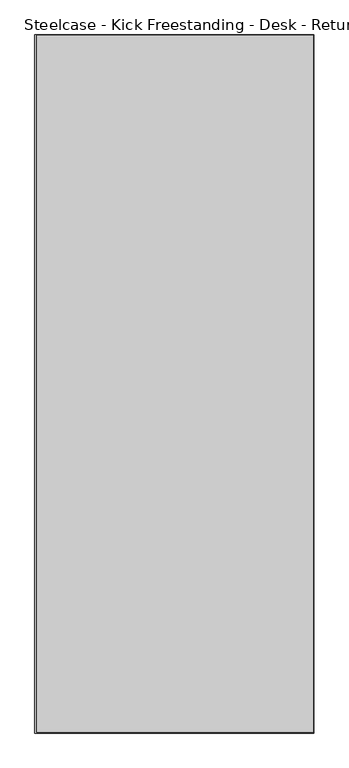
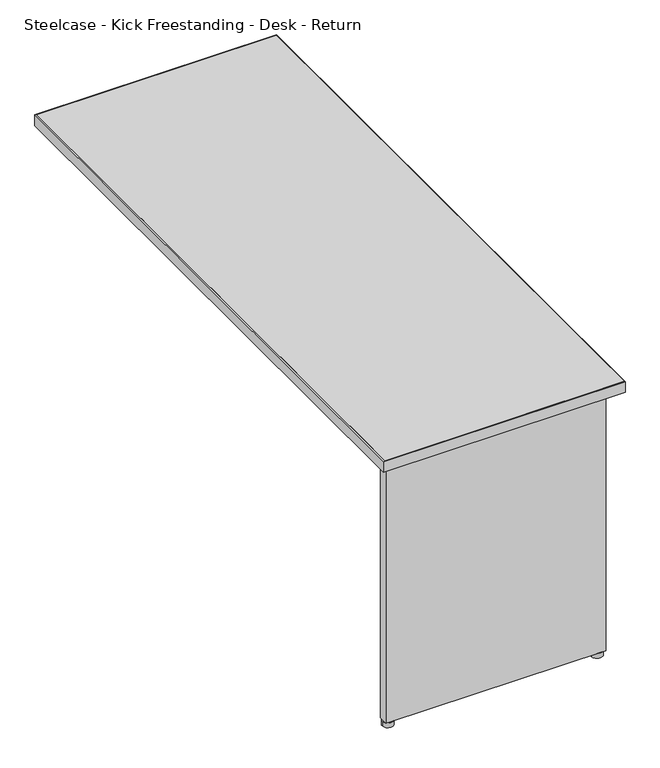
"""IFC4 building model written with IfcOpenShell, lengths in millimetres: furniture geometry, Steelcase - Kick Freestanding - Desk - Return : 24D x 60W - Right."""

from ifc_helpers import new_model, si_unit, point, frame, frame_2d, origin, origin_with_axes, place, context, project, spatial, polyline, circle_curve, trimmed, segment, composite_curve, outline, extrude, source, transform, mapped, element, save


def steelcase_kick_freestanding_desk_return_89936a81(model_context):
    return source(origin(), model_context, "Body", "SweptSolid", [
        extrude(outline(composite_curve([segment(trimmed(circle_curve(frame_2d((2107.4714425, -2045.4145152)), 13.97), [point((2121.4414425, -2045.4145152))], [point((2093.5014425, -2045.4145152))], False, "CARTESIAN"), True, "CONTINUOUS"), segment(trimmed(circle_curve(frame_2d((2107.4714425, -2045.4145152)), 13.97), [point((2093.5014425, -2045.4145152))], [point((2121.4414425, -2045.4145152))], False, "CARTESIAN"), True, "CONTINUOUS")], self_intersect=False)), origin_with_axes(), (0.0, 0.0, 1.0), 12.7),
        extrude(outline(composite_curve([segment(trimmed(circle_curve(frame_2d((1579.6594425, -2045.4145152)), 13.97), [point((1593.6294425, -2045.4145152))], [point((1565.6894425, -2045.4145152))], False, "CARTESIAN"), True, "CONTINUOUS"), segment(trimmed(circle_curve(frame_2d((1579.6594425, -2045.4145152)), 13.97), [point((1565.6894425, -2045.4145152))], [point((1593.6294425, -2045.4145152))], False, "CARTESIAN"), True, "CONTINUOUS")], self_intersect=False)), origin_with_axes(), (0.0, 0.0, 1.0), 12.7),
        extrude(outline(polyline([(2122.7114425, -2032.8669152), (2122.7114425, -2057.3525098), (1568.2294473, -2057.3525098), (1568.2294473, -2032.8669041), (1691.2670317, -2032.8669041), (1691.2670317, -2055.2951136), (1790.9874347, -2055.2951136), (1790.9874347, -2032.8669041), (1899.7248382, -2032.8669041), (1899.7248382, -2055.2951136), (1999.4452412, -2055.2951136), (1999.4452412, -2032.8669152), (2122.7114425, -2032.8669152)])), frame((0.0, 0.0, 12.7), z_axis=(0.0, 0.0, 1.0), x_axis=(1.0, 0.0, 0.0)), (0.0, 0.0, 1.0), 682.244),
        extrude(outline(polyline([(1558.5012257, -548.0845152), (2162.8688425, -548.0845152), (2162.8688425, -2069.5445152), (1558.5012257, -2069.5445152), (1558.5012257, -548.0845152)])), frame((0.0, 0.0, 694.944), z_axis=(0.0, 0.0, 1.0), x_axis=(1.0, 0.0, 0.0)), (0.0, 0.0, 1.0), 28.956),
        extrude(outline(polyline([(1554.2594425, -546.8145152), (2163.8594425, -546.8145152), (2163.8594425, -2070.8145152), (1554.2594425, -2070.8145152), (1554.2594425, -546.8145152)]), holes=[polyline([(1558.5012257, -548.0845152), (1558.5012257, -2069.5445152), (2162.8688425, -2069.5445152), (2162.8688425, -548.0845152), (1558.5012257, -548.0845152)])]), frame((0.0, 0.0, 694.944), z_axis=(0.0, 0.0, 1.0), x_axis=(1.0, 0.0, 0.0)), (0.0, 0.0, 1.0), 28.956),
    ])


if __name__ == "__main__":
    model = new_model("IFC4")
    model_context = context("Model", 3, world=origin())
    ifc_project = project(units=[si_unit("LENGTHUNIT", "METRE", prefix="MILLI")], contexts=[model_context])
    site = spatial("IfcSite", under=ifc_project)
    building = spatial("IfcBuilding", under=site)
    placement = place(None, origin())
    steelcase_kick_freestanding_desk_return_shape = steelcase_kick_freestanding_desk_return_89936a81(model_context)
    element("IfcFurniture", 1, ObjectType="Steelcase - Kick Freestanding - Desk - Return : 24D x 60W - Right", at=placement, inside=building, context=model_context, shape_type="MappedRepresentation", body=[
        mapped(steelcase_kick_freestanding_desk_return_shape, transform((0.0, 0.0, 0.0), x_axis=(1.0, 0.0, 0.0), y_axis=(0.0, 1.0, 0.0), z_axis=(0.0, 0.0, 1.0))),
    ])
    save(model, "model.ifc")
